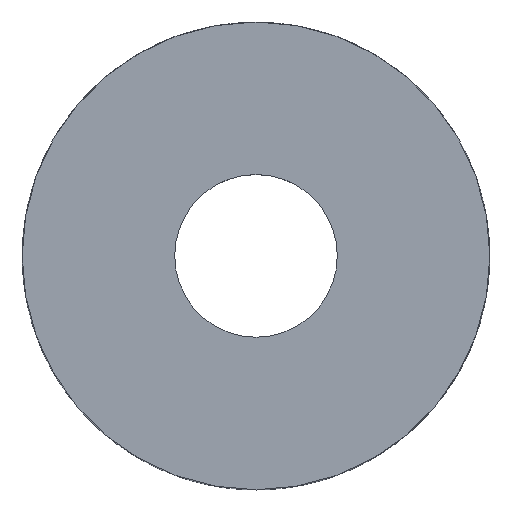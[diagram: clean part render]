
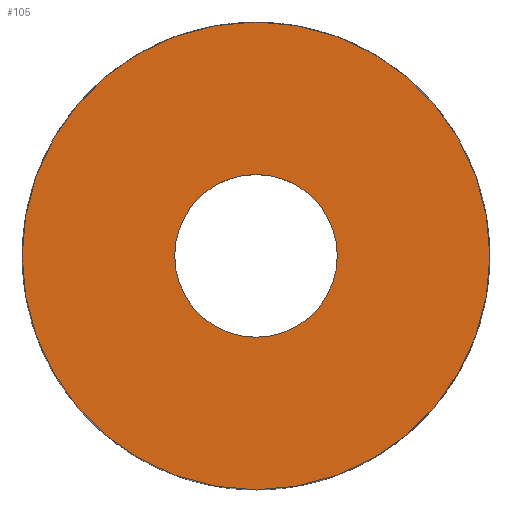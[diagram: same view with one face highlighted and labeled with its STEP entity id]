
A CAD part, top view. The second image highlights one B-rep face of the part: STEP entity #105.
In plain terms, the highlighted planar face has unit normal (0, 0, 1).
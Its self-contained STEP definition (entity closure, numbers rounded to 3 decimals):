
#22 = VERTEX_POINT('',#23);
#23 = CARTESIAN_POINT('',(8.625,0.,0.));
#32 = CYLINDRICAL_SURFACE('',#33,8.625);
#33 = AXIS2_PLACEMENT_3D('',#34,#35,#36);
#34 = CARTESIAN_POINT('',(0.,0.,0.));
#35 = DIRECTION('',(0.,0.,1.));
#36 = DIRECTION('',(1.,0.,-0.));
#79 = EDGE_CURVE('',#22,#22,#80,.T.);
#80 = SURFACE_CURVE('',#81,(#86,#93),.PCURVE_S1.);
#81 = CIRCLE('',#82,8.625);
#82 = AXIS2_PLACEMENT_3D('',#83,#84,#85);
#83 = CARTESIAN_POINT('',(0.,0.,0.));
#84 = DIRECTION('',(0.,0.,1.));
#85 = DIRECTION('',(1.,0.,-0.));
#86 = PCURVE('',#32,#87);
#87 = DEFINITIONAL_REPRESENTATION('',(#88),#92);
#88 = LINE('',#89,#90);
#89 = CARTESIAN_POINT('',(0.,0.));
#90 = VECTOR('',#91,1.);
#91 = DIRECTION('',(1.,0.));
#92 = ( GEOMETRIC_REPRESENTATION_CONTEXT(2) 
PARAMETRIC_REPRESENTATION_CONTEXT() REPRESENTATION_CONTEXT('2D SPACE',''
  ) );
#93 = PCURVE('',#94,#99);
#94 = PLANE('',#95);
#95 = AXIS2_PLACEMENT_3D('',#96,#97,#98);
#96 = CARTESIAN_POINT('',(0.,0.,0.));
#97 = DIRECTION('',(0.,0.,1.));
#98 = DIRECTION('',(1.,0.,-0.));
#99 = DEFINITIONAL_REPRESENTATION('',(#100),#104);
#100 = CIRCLE('',#101,8.625);
#101 = AXIS2_PLACEMENT_2D('',#102,#103);
#102 = CARTESIAN_POINT('',(0.,0.));
#103 = DIRECTION('',(1.,0.));
#104 = ( GEOMETRIC_REPRESENTATION_CONTEXT(2) 
PARAMETRIC_REPRESENTATION_CONTEXT() REPRESENTATION_CONTEXT('2D SPACE',''
  ) );
#105 = ADVANCED_FACE('',(#106,#109),#94,.T.);
#106 = FACE_BOUND('',#107,.T.);
#107 = EDGE_LOOP('',(#108));
#108 = ORIENTED_EDGE('',*,*,#79,.T.);
#109 = FACE_BOUND('',#110,.T.);
#110 = EDGE_LOOP('',(#111));
#111 = ORIENTED_EDGE('',*,*,#112,.F.);
#112 = EDGE_CURVE('',#113,#113,#115,.T.);
#113 = VERTEX_POINT('',#114);
#114 = CARTESIAN_POINT('',(3.,0.,0.));
#115 = SURFACE_CURVE('',#116,(#121,#128),.PCURVE_S1.);
#116 = CIRCLE('',#117,3.);
#117 = AXIS2_PLACEMENT_3D('',#118,#119,#120);
#118 = CARTESIAN_POINT('',(0.,0.,0.));
#119 = DIRECTION('',(0.,0.,1.));
#120 = DIRECTION('',(1.,0.,-0.));
#121 = PCURVE('',#94,#122);
#122 = DEFINITIONAL_REPRESENTATION('',(#123),#127);
#123 = CIRCLE('',#124,3.);
#124 = AXIS2_PLACEMENT_2D('',#125,#126);
#125 = CARTESIAN_POINT('',(0.,0.));
#126 = DIRECTION('',(1.,0.));
#127 = ( GEOMETRIC_REPRESENTATION_CONTEXT(2) 
PARAMETRIC_REPRESENTATION_CONTEXT() REPRESENTATION_CONTEXT('2D SPACE',''
  ) );
#128 = PCURVE('',#129,#134);
#129 = CYLINDRICAL_SURFACE('',#130,3.);
#130 = AXIS2_PLACEMENT_3D('',#131,#132,#133);
#131 = CARTESIAN_POINT('',(0.,0.,0.));
#132 = DIRECTION('',(-0.,-0.,-1.));
#133 = DIRECTION('',(1.,0.,0.));
#134 = DEFINITIONAL_REPRESENTATION('',(#135),#139);
#135 = LINE('',#136,#137);
#136 = CARTESIAN_POINT('',(6.283,0.));
#137 = VECTOR('',#138,1.);
#138 = DIRECTION('',(-1.,0.));
#139 = ( GEOMETRIC_REPRESENTATION_CONTEXT(2) 
PARAMETRIC_REPRESENTATION_CONTEXT() REPRESENTATION_CONTEXT('2D SPACE',''
  ) );
